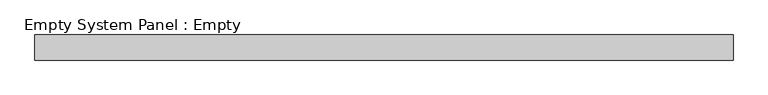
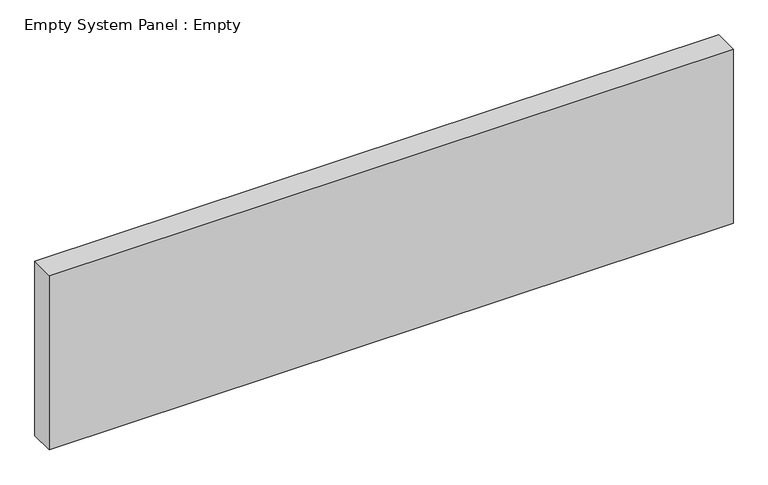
"""IFC4 building model written with IfcOpenShell, lengths in millimetres: plate geometry, Empty System Panel : Empty."""

from ifc_helpers import new_model, si_unit, origin, origin_with_axes, place, context, project, spatial, polyline, outline, extrude, source, transform, mapped, element, save


def empty_system_panel_empty_f1e40453(model_context):
    return source(origin(), model_context, "Body", "SweptSolid", [
        extrude(outline(polyline([(1391.25, -50.0), (-1391.25, -50.0), (-1391.25, 50.0), (1391.25, 50.0), (1391.25, -50.0)])), origin_with_axes(), (0.0, 0.0, 1.0), 750.0),
    ])


if __name__ == "__main__":
    model = new_model("IFC4")
    model_context = context("Model", 3, world=origin())
    ifc_project = project(units=[si_unit("LENGTHUNIT", "METRE", prefix="MILLI")], contexts=[model_context])
    site = spatial("IfcSite", under=ifc_project)
    building = spatial("IfcBuilding", under=site)
    placement = place(None, origin())
    empty_system_panel_empty_shape = empty_system_panel_empty_f1e40453(model_context)
    element("IfcPlate", 1, ObjectType="Empty System Panel : Empty", at=placement, inside=building, context=model_context, shape_type="MappedRepresentation", body=[
        mapped(empty_system_panel_empty_shape, transform((0.0, 0.0, 0.0), x_axis=(1.0, 0.0, 0.0), y_axis=(0.0, 1.0, 0.0), z_axis=(0.0, 0.0, 1.0))),
    ])
    save(model, "model.ifc")
